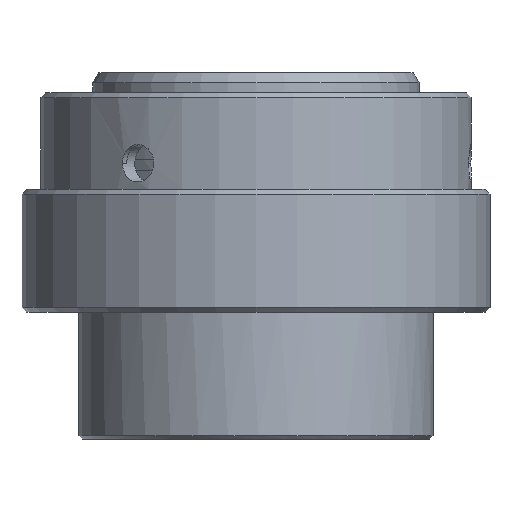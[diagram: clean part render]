
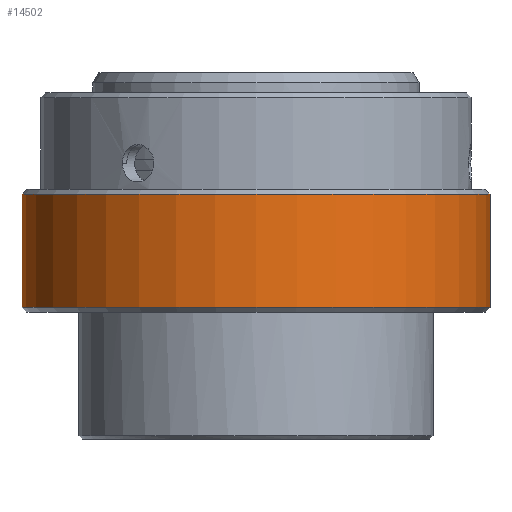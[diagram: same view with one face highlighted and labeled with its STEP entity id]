
A CAD part, left-side view. The second image highlights one B-rep face of the part: STEP entity #14502.
In plain terms, the highlighted cylindrical face has radius 24.664 mm (diameter 49.328 mm), a partial arc.
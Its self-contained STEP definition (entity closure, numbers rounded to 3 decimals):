
#220=DIRECTION('',(0.,0.,1.));
#221=VECTOR('',#220,11.938);
#222=CARTESIAN_POINT('',(0.,24.664,-22.606));
#223=LINE('',#222,#221);
#224=DIRECTION('',(0.,0.,1.));
#225=VECTOR('',#224,11.938);
#226=CARTESIAN_POINT('',(0.,-24.664,-22.606));
#227=LINE('',#226,#225);
#228=CARTESIAN_POINT('',(0.,0.,-22.606));
#229=DIRECTION('',(0.,0.,1.));
#230=DIRECTION('',(0.,1.,0.));
#231=AXIS2_PLACEMENT_3D('',#228,#229,#230);
#241=CARTESIAN_POINT('',(0.,0.,-10.668));
#242=DIRECTION('',(0.,0.,1.));
#243=DIRECTION('',(0.,1.,0.));
#244=AXIS2_PLACEMENT_3D('',#241,#242,#243);
#11538=CARTESIAN_POINT('',(0.,24.664,-22.606));
#11539=CARTESIAN_POINT('',(0.,24.664,-10.668));
#11540=VERTEX_POINT('',#11538);
#11541=VERTEX_POINT('',#11539);
#11544=CARTESIAN_POINT('',(0.,-24.664,-22.606));
#11545=CARTESIAN_POINT('',(0.,-24.664,-10.668));
#11546=VERTEX_POINT('',#11544);
#11547=VERTEX_POINT('',#11545);
#14490=CARTESIAN_POINT('',(0.,0.,1.156));
#14491=DIRECTION('',(0.,0.,-1.));
#14492=DIRECTION('',(0.,-1.,0.));
#14493=AXIS2_PLACEMENT_3D('',#14490,#14491,#14492);
#14494=CYLINDRICAL_SURFACE('',#14493,24.664);
#14495=ORIENTED_EDGE('',*,*,#14480,.T.);
#14497=ORIENTED_EDGE('',*,*,#14496,.T.);
#14498=ORIENTED_EDGE('',*,*,#14483,.F.);
#14499=ORIENTED_EDGE('',*,*,#14454,.F.);
#14500=EDGE_LOOP('',(#14495,#14497,#14498,#14499));
#14501=FACE_OUTER_BOUND('',#14500,.F.);
#14502=ADVANCED_FACE('',(#14501),#14494,.T.);
#232=CIRCLE('',#231,24.664);
#245=CIRCLE('',#244,24.664);
#14454=EDGE_CURVE('',#11540,#11546,#232,.T.);
#14480=EDGE_CURVE('',#11540,#11541,#223,.T.);
#14483=EDGE_CURVE('',#11546,#11547,#227,.T.);
#14496=EDGE_CURVE('',#11541,#11547,#245,.T.);
